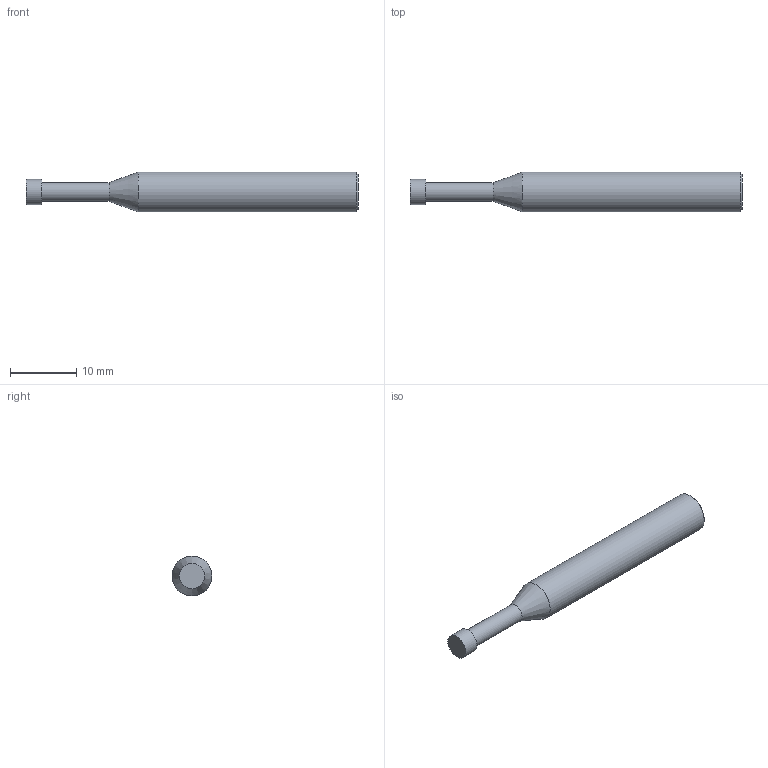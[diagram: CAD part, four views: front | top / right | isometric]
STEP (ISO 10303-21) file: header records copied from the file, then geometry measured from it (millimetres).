
FILE_DESCRIPTION(/* description */ (''),/* implementation_level */ '2;1');
FILE_NAME(/* name */ 'HSXDT-0.8-12.5 0650.stp',/* time_stamp */ '2026-02-24T08:39:38+08:00',/* author */ (''),/* organization */ (''),/* preprocessor_version */ 'ST-DEVELOPER v16',/* originating_system */ 'SIEMENS PLM Software NX 10.0',/* authorisation */ '');
FILE_SCHEMA (('CONFIG_CONTROL_DESIGN'));
Length unit declared in the file: millimetre
Products named in the file (1): HSXDT-0.8-12.5 0650_dxf
Bounding box: 50 x 6 x 6 mm (x, y, z)
Volume: 1094.4 mm3; surface area: 847.5 mm2
Topology: 1 solids, 1 shells, 8 faces, 12 edges, 7 vertices
Faces by surface type: plane 3, cylinder 3, cone 2
Full cylindrical faces by diameter (mm): 2.8 x1, 3.8 x1, 6 x1
Entity records: 238 total; most frequent: DIRECTION 32, CARTESIAN_POINT 23, AXIS2_PLACEMENT_3D 16, EDGE_LOOP 14, ORIENTED_EDGE 14, FACE_BOUND 12, ADVANCED_FACE 8, PERSON_AND_ORGANIZATION 7
